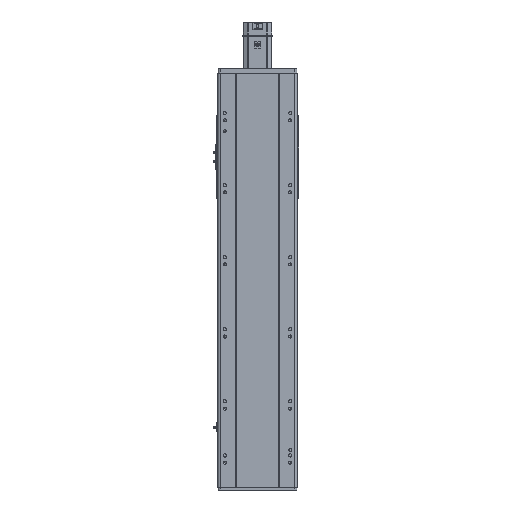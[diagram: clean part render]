
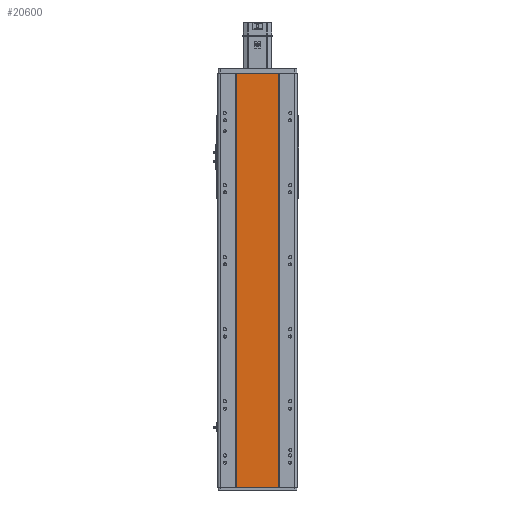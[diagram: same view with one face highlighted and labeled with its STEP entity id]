
A CAD part, front view. The second image highlights one B-rep face of the part: STEP entity #20600.
In plain terms, the highlighted planar face has unit normal (0, -1, 0).
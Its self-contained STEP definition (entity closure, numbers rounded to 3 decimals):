
#99 = AXIS2_PLACEMENT_3D ( 'NONE', #18428, #21269, #24119 ) ;
#1418 = VERTEX_POINT ( 'NONE', #25920 ) ;
#3829 = EDGE_CURVE ( 'NONE', #20977, #1418, #5983, .T. ) ;
#5983 = LINE ( 'NONE', #25850, #26267 ) ;
#6442 = CARTESIAN_POINT ( 'NONE',  ( -59., 1., -575.5 ) ) ;
#6666 = EDGE_LOOP ( 'NONE', ( #15598, #36348, #36201, #10532 ) ) ;
#7506 = DIRECTION ( 'NONE',  ( 1., 0., 0. ) ) ;
#8072 = EDGE_CURVE ( 'NONE', #15339, #11119, #18392, .T. ) ;
#8827 = VECTOR ( 'NONE', #7506, 1000. ) ;
#10082 = CARTESIAN_POINT ( 'NONE',  ( -59., 1., 575.5 ) ) ;
#10140 = DIRECTION ( 'NONE',  ( 1., 0., 0. ) ) ;
#10532 = ORIENTED_EDGE ( 'NONE', *, *, #8072, .T. ) ;
#10802 = EDGE_CURVE ( 'NONE', #15339, #20977, #13522, .T. ) ;
#10815 = CARTESIAN_POINT ( 'NONE',  ( -59., 1., -575.5 ) ) ;
#11119 = VERTEX_POINT ( 'NONE', #6442 ) ;
#12260 = PLANE ( 'NONE',  #99 ) ;
#12325 = EDGE_CURVE ( 'NONE', #11119, #1418, #37445, .T. ) ;
#12888 = CARTESIAN_POINT ( 'NONE',  ( -59., 1., 575.5 ) ) ;
#13522 = LINE ( 'NONE', #31179, #20446 ) ;
#15339 = VERTEX_POINT ( 'NONE', #12888 ) ;
#15598 = ORIENTED_EDGE ( 'NONE', *, *, #12325, .T. ) ;
#17350 = FACE_OUTER_BOUND ( 'NONE', #6666, .T. ) ;
#18392 = LINE ( 'NONE', #10082, #27592 ) ;
#18428 = CARTESIAN_POINT ( 'NONE',  ( -59., 1., 575.5 ) ) ;
#19945 = CARTESIAN_POINT ( 'NONE',  ( 59., 1., 575.5 ) ) ;
#20446 = VECTOR ( 'NONE', #10140, 1000. ) ;
#20600 = ADVANCED_FACE ( 'NONE', ( #17350 ), #12260, .F. ) ;
#20977 = VERTEX_POINT ( 'NONE', #19945 ) ;
#21269 = DIRECTION ( 'NONE',  ( 0., 1., 0. ) ) ;
#24119 = DIRECTION ( 'NONE',  ( -1., 0., 0. ) ) ;
#24403 = DIRECTION ( 'NONE',  ( 0., 0., -1. ) ) ;
#25850 = CARTESIAN_POINT ( 'NONE',  ( 59., 1., 575.5 ) ) ;
#25920 = CARTESIAN_POINT ( 'NONE',  ( 59., 1., -575.5 ) ) ;
#26267 = VECTOR ( 'NONE', #34676, 1000. ) ;
#27592 = VECTOR ( 'NONE', #24403, 1000. ) ;
#31179 = CARTESIAN_POINT ( 'NONE',  ( -59., 1., 575.5 ) ) ;
#34676 = DIRECTION ( 'NONE',  ( 0., 0., -1. ) ) ;
#36201 = ORIENTED_EDGE ( 'NONE', *, *, #10802, .F. ) ;
#36348 = ORIENTED_EDGE ( 'NONE', *, *, #3829, .F. ) ;
#37445 = LINE ( 'NONE', #10815, #8827 ) ;
